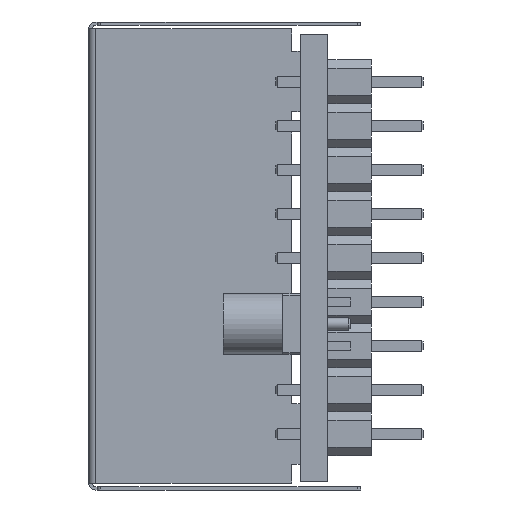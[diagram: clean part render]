
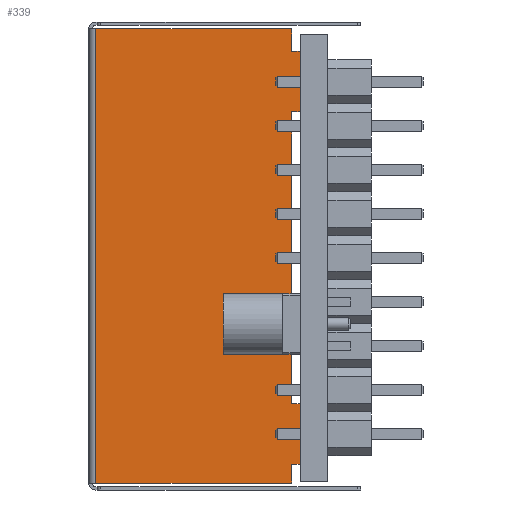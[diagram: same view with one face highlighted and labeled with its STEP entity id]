
A CAD part, left-side view. The second image highlights one B-rep face of the part: STEP entity #339.
In plain terms, the highlighted planar face has unit normal (-1, 0, 0).
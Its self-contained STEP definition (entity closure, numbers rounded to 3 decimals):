
#339=ADVANCED_FACE('',(#1665),#1664,.T.);
#1664=PLANE('',#7452);
#1665=FACE_OUTER_BOUND('',#7453,.T.);
#7449=CARTESIAN_POINT('',(-74.71,-2.33,40.25));
#7450=DIRECTION('',(-1.,0.,0.));
#7451=DIRECTION('',(0.,1.,0.));
#7452=AXIS2_PLACEMENT_3D('',#7449,#7450,#7451);
#7453=EDGE_LOOP('',(#10560,#10561,#10562,#10563,#10564,#10565,#10566,#10567,#10568,#10569,#10570,#10571,#10572,#10573,#10574,#10575,#10576,#10577,#10578,#10579));
#10560=ORIENTED_EDGE('',*,*,#13448,.T.);
#10561=ORIENTED_EDGE('',*,*,#13458,.T.);
#10562=ORIENTED_EDGE('',*,*,#13459,.F.);
#10563=ORIENTED_EDGE('',*,*,#13460,.F.);
#10564=ORIENTED_EDGE('',*,*,#13461,.F.);
#10565=ORIENTED_EDGE('',*,*,#13462,.F.);
#10566=ORIENTED_EDGE('',*,*,#13457,.F.);
#10567=ORIENTED_EDGE('',*,*,#13463,.F.);
#10568=ORIENTED_EDGE('',*,*,#13450,.T.);
#10569=ORIENTED_EDGE('',*,*,#13464,.T.);
#10570=ORIENTED_EDGE('',*,*,#13465,.F.);
#10571=ORIENTED_EDGE('',*,*,#13466,.F.);
#10572=ORIENTED_EDGE('',*,*,#13467,.F.);
#10573=ORIENTED_EDGE('',*,*,#13468,.T.);
#10574=ORIENTED_EDGE('',*,*,#13395,.T.);
#10575=ORIENTED_EDGE('',*,*,#13469,.F.);
#10576=ORIENTED_EDGE('',*,*,#13470,.F.);
#10577=ORIENTED_EDGE('',*,*,#13471,.F.);
#10578=ORIENTED_EDGE('',*,*,#13472,.F.);
#10579=ORIENTED_EDGE('',*,*,#13473,.F.);
#13395=EDGE_CURVE('',#15908,#15915,#15922,.T.);
#13448=EDGE_CURVE('',#16258,#16265,#16272,.T.);
#13450=EDGE_CURVE('',#16285,#16278,#16286,.T.);
#13457=EDGE_CURVE('',#16325,#16318,#16332,.T.);
#13458=EDGE_CURVE('',#16265,#16338,#16339,.T.);
#13459=EDGE_CURVE('',#16345,#16338,#16346,.T.);
#13460=EDGE_CURVE('',#16352,#16345,#16353,.T.);
#13461=EDGE_CURVE('',#16359,#16352,#16360,.T.);
#13462=EDGE_CURVE('',#16318,#16359,#16366,.T.);
#13463=EDGE_CURVE('',#16285,#16325,#16372,.T.);
#13464=EDGE_CURVE('',#16278,#16378,#16379,.T.);
#13465=EDGE_CURVE('',#16385,#16378,#16386,.T.);
#13466=EDGE_CURVE('',#16392,#16385,#16393,.T.);
#13467=EDGE_CURVE('',#16399,#16392,#16400,.T.);
#13468=EDGE_CURVE('',#16399,#15908,#16406,.T.);
#13469=EDGE_CURVE('',#16412,#15915,#16413,.T.);
#13470=EDGE_CURVE('',#16419,#16412,#16420,.T.);
#13471=EDGE_CURVE('',#16426,#16419,#16427,.T.);
#13472=EDGE_CURVE('',#16433,#16426,#16434,.T.);
#13473=EDGE_CURVE('',#16258,#16433,#16440,.T.);
#15908=VERTEX_POINT('',#25483);
#15915=VERTEX_POINT('',#25488);
#15922=LINE('',#25493,#25494);
#16258=VERTEX_POINT('',#25702);
#16265=VERTEX_POINT('',#25706);
#16272=CIRCLE('',#25713,0.75);
#16278=VERTEX_POINT('',#25714);
#16285=VERTEX_POINT('',#25718);
#16286=CIRCLE('',#25722,0.75);
#16318=VERTEX_POINT('',#25737);
#16325=VERTEX_POINT('',#25741);
#16332=LINE('',#25745,#25746);
#16338=VERTEX_POINT('',#25748);
#16339=LINE('',#25749,#25750);
#16345=VERTEX_POINT('',#25752);
#16346=LINE('',#25753,#25754);
#16352=VERTEX_POINT('',#25756);
#16353=LINE('',#25757,#25758);
#16359=VERTEX_POINT('',#25760);
#16360=LINE('',#25761,#25762);
#16366=LINE('',#25764,#25765);
#16372=LINE('',#25767,#25768);
#16378=VERTEX_POINT('',#25770);
#16379=LINE('',#25771,#25772);
#16385=VERTEX_POINT('',#25774);
#16386=LINE('',#25775,#25776);
#16392=VERTEX_POINT('',#25778);
#16393=LINE('',#25779,#25780);
#16399=VERTEX_POINT('',#25782);
#16400=LINE('',#25783,#25784);
#16406=LINE('',#25786,#25787);
#16412=VERTEX_POINT('',#25789);
#16413=LINE('',#25790,#25791);
#16419=VERTEX_POINT('',#25793);
#16420=LINE('',#25794,#25795);
#16426=VERTEX_POINT('',#25797);
#16427=LINE('',#25798,#25799);
#16433=VERTEX_POINT('',#25801);
#16434=LINE('',#25802,#25803);
#16440=LINE('',#25805,#25806);
#25483=CARTESIAN_POINT('',(-74.71,13.4,37.63));
#25488=CARTESIAN_POINT('',(-74.71,13.4,11.43));
#25493=CARTESIAN_POINT('',(-74.71,13.4,37.63));
#25494=VECTOR('',#25495,26.2);
#25495=DIRECTION('',(0.,0.,-1.));
#25702=CARTESIAN_POINT('',(-74.71,-0.15,13.52));
#25706=CARTESIAN_POINT('',(-74.71,-0.15,15.02));
#25710=CARTESIAN_POINT('',(-74.71,-0.15,14.27));
#25711=DIRECTION('',(-1.,0.,0.));
#25712=DIRECTION('',(0.,0.,-1.));
#25713=AXIS2_PLACEMENT_3D('',#25710,#25711,#25712);
#25714=CARTESIAN_POINT('',(-74.71,-0.15,35.34));
#25718=CARTESIAN_POINT('',(-74.71,-0.15,33.84));
#25719=CARTESIAN_POINT('',(-74.71,-0.15,34.59));
#25720=DIRECTION('',(-1.,0.,0.));
#25721=DIRECTION('',(0.,0.,-1.));
#25722=AXIS2_PLACEMENT_3D('',#25719,#25720,#25721);
#25737=CARTESIAN_POINT('',(-74.71,1.6,32.84));
#25741=CARTESIAN_POINT('',(-74.71,1.6,33.84));
#25745=CARTESIAN_POINT('',(-74.71,1.6,33.84));
#25746=VECTOR('',#25747,1.);
#25747=DIRECTION('',(0.,0.,-1.));
#25748=CARTESIAN_POINT('',(-74.71,1.6,15.02));
#25749=CARTESIAN_POINT('',(-74.71,-0.15,15.02));
#25750=VECTOR('',#25751,1.75);
#25751=DIRECTION('',(0.,1.,0.));
#25752=CARTESIAN_POINT('',(-74.71,1.6,16.02));
#25753=CARTESIAN_POINT('',(-74.71,1.6,16.02));
#25754=VECTOR('',#25755,1.);
#25755=DIRECTION('',(0.,0.,-1.));
#25756=CARTESIAN_POINT('',(-74.71,2.1,16.02));
#25757=CARTESIAN_POINT('',(-74.71,2.1,16.02));
#25758=VECTOR('',#25759,0.5);
#25759=DIRECTION('',(0.,-1.,0.));
#25760=CARTESIAN_POINT('',(-74.71,2.1,32.84));
#25761=CARTESIAN_POINT('',(-74.71,2.1,32.84));
#25762=VECTOR('',#25763,16.82);
#25763=DIRECTION('',(0.,0.,-1.));
#25764=CARTESIAN_POINT('',(-74.71,1.6,32.84));
#25765=VECTOR('',#25766,0.5);
#25766=DIRECTION('',(0.,1.,0.));
#25767=CARTESIAN_POINT('',(-74.71,-0.15,33.84));
#25768=VECTOR('',#25769,1.75);
#25769=DIRECTION('',(0.,1.,0.));
#25770=CARTESIAN_POINT('',(-74.71,1.6,35.34));
#25771=CARTESIAN_POINT('',(-74.71,-0.15,35.34));
#25772=VECTOR('',#25773,1.75);
#25773=DIRECTION('',(0.,1.,0.));
#25774=CARTESIAN_POINT('',(-74.71,1.6,36.34));
#25775=CARTESIAN_POINT('',(-74.71,1.6,36.34));
#25776=VECTOR('',#25777,1.);
#25777=DIRECTION('',(0.,0.,-1.));
#25778=CARTESIAN_POINT('',(-74.71,2.1,36.34));
#25779=CARTESIAN_POINT('',(-74.71,2.1,36.34));
#25780=VECTOR('',#25781,0.5);
#25781=DIRECTION('',(0.,-1.,0.));
#25782=CARTESIAN_POINT('',(-74.71,2.1,37.63));
#25783=CARTESIAN_POINT('',(-74.71,2.1,37.63));
#25784=VECTOR('',#25785,1.29);
#25785=DIRECTION('',(0.,0.,-1.));
#25786=CARTESIAN_POINT('',(-74.71,2.1,37.63));
#25787=VECTOR('',#25788,11.3);
#25788=DIRECTION('',(0.,1.,0.));
#25789=CARTESIAN_POINT('',(-74.71,2.1,11.43));
#25790=CARTESIAN_POINT('',(-74.71,2.1,11.43));
#25791=VECTOR('',#25792,11.3);
#25792=DIRECTION('',(0.,1.,0.));
#25793=CARTESIAN_POINT('',(-74.71,2.1,12.52));
#25794=CARTESIAN_POINT('',(-74.71,2.1,12.52));
#25795=VECTOR('',#25796,1.09);
#25796=DIRECTION('',(0.,0.,-1.));
#25797=CARTESIAN_POINT('',(-74.71,1.6,12.52));
#25798=CARTESIAN_POINT('',(-74.71,1.6,12.52));
#25799=VECTOR('',#25800,0.5);
#25800=DIRECTION('',(0.,1.,0.));
#25801=CARTESIAN_POINT('',(-74.71,1.6,13.52));
#25802=CARTESIAN_POINT('',(-74.71,1.6,13.52));
#25803=VECTOR('',#25804,1.);
#25804=DIRECTION('',(0.,0.,-1.));
#25805=CARTESIAN_POINT('',(-74.71,-0.15,13.52));
#25806=VECTOR('',#25807,1.75);
#25807=DIRECTION('',(0.,1.,0.));
